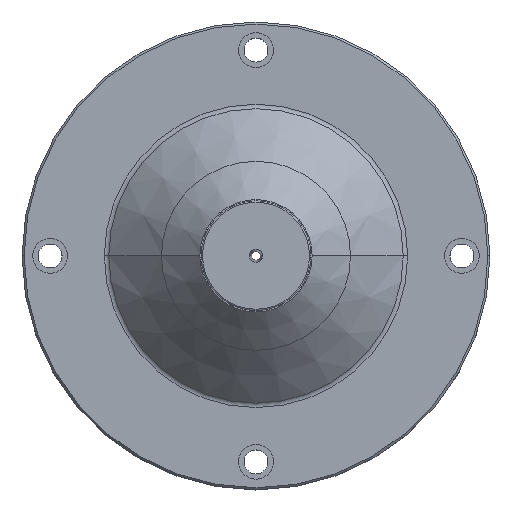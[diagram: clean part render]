
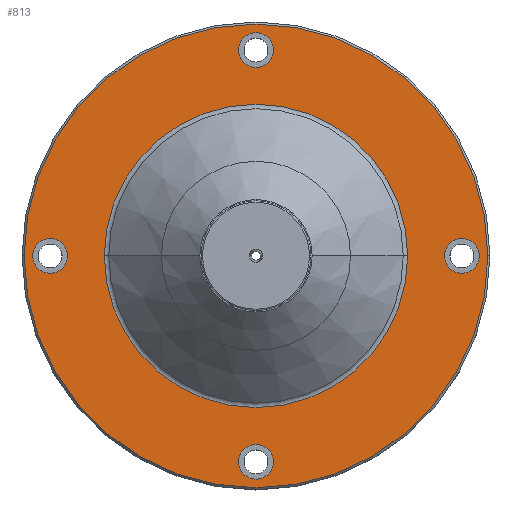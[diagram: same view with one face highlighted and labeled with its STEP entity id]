
A CAD part, top view. The second image highlights one B-rep face of the part: STEP entity #813.
In plain terms, the highlighted planar face has unit normal (0, 0, 1).
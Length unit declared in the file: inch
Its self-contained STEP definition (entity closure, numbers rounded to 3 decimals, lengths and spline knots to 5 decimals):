
#80=CARTESIAN_POINT('',(0.,0.,1.12));
#81=DIRECTION('',(0.,0.,-1.));
#82=DIRECTION('',(-1.,0.,0.));
#83=AXIS2_PLACEMENT_3D('',#80,#81,#82);
#85=CARTESIAN_POINT('',(0.,0.,1.12));
#86=DIRECTION('',(0.,0.,-1.));
#87=DIRECTION('',(1.,0.,0.));
#88=AXIS2_PLACEMENT_3D('',#85,#86,#87);
#90=CARTESIAN_POINT('',(0.,0.,
1.12));
#91=DIRECTION('',(0.,0.,1.));
#92=DIRECTION('',(1.,0.,0.));
#93=AXIS2_PLACEMENT_3D('',#90,#91,#92);
#95=CARTESIAN_POINT('',(0.,0.,
1.12));
#96=DIRECTION('',(0.,0.,1.));
#97=DIRECTION('',(-1.,0.,0.));
#98=AXIS2_PLACEMENT_3D('',#95,#96,#97);
#100=CARTESIAN_POINT('',(0.,2.97,1.12));
#101=DIRECTION('',(0.,0.,-1.));
#102=DIRECTION('',(-1.,0.,0.));
#103=AXIS2_PLACEMENT_3D('',#100,#101,#102);
#105=CARTESIAN_POINT('',(0.,2.97,1.12));
#106=DIRECTION('',(0.,0.,-1.));
#107=DIRECTION('',(1.,0.,0.));
#108=AXIS2_PLACEMENT_3D('',#105,#106,#107);
#110=CARTESIAN_POINT('',(2.97,0.,1.12));
#111=DIRECTION('',(0.,0.,-1.));
#112=DIRECTION('',(-1.,0.,0.));
#113=AXIS2_PLACEMENT_3D('',#110,#111,#112);
#115=CARTESIAN_POINT('',(2.97,0.,1.12));
#116=DIRECTION('',(0.,0.,-1.));
#117=DIRECTION('',(1.,0.,0.));
#118=AXIS2_PLACEMENT_3D('',#115,#116,#117);
#120=CARTESIAN_POINT('',(0.,-2.97,1.12));
#121=DIRECTION('',(0.,0.,-1.));
#122=DIRECTION('',(-1.,0.,0.));
#123=AXIS2_PLACEMENT_3D('',#120,#121,#122);
#125=CARTESIAN_POINT('',(0.,-2.97,1.12));
#126=DIRECTION('',(0.,0.,-1.));
#127=DIRECTION('',(1.,0.,0.));
#128=AXIS2_PLACEMENT_3D('',#125,#126,#127);
#130=CARTESIAN_POINT('',(-2.97,0.,1.12));
#131=DIRECTION('',(0.,0.,-1.));
#132=DIRECTION('',(-1.,0.,0.));
#133=AXIS2_PLACEMENT_3D('',#130,#131,#132);
#135=CARTESIAN_POINT('',(-2.97,0.,1.12));
#136=DIRECTION('',(0.,0.,-1.));
#137=DIRECTION('',(1.,0.,0.));
#138=AXIS2_PLACEMENT_3D('',#135,#136,#137);
#586=CARTESIAN_POINT('',(-2.18785,0.,1.12));
#587=CARTESIAN_POINT('',(2.18785,0.,1.12));
#588=VERTEX_POINT('',#586);
#589=VERTEX_POINT('',#587);
#594=CARTESIAN_POINT('',(3.345,0.,1.12));
#595=CARTESIAN_POINT('',(-3.345,0.,1.12));
#596=VERTEX_POINT('',#594);
#597=VERTEX_POINT('',#595);
#618=CARTESIAN_POINT('',(-0.25,2.97,1.12));
#619=CARTESIAN_POINT('',(0.25,2.97,1.12));
#620=VERTEX_POINT('',#618);
#621=VERTEX_POINT('',#619);
#634=CARTESIAN_POINT('',(2.72,0.,1.12));
#635=CARTESIAN_POINT('',(3.22,0.,1.12));
#636=VERTEX_POINT('',#634);
#637=VERTEX_POINT('',#635);
#650=CARTESIAN_POINT('',(-0.25,-2.97,1.12));
#651=CARTESIAN_POINT('',(0.25,-2.97,1.12));
#652=VERTEX_POINT('',#650);
#653=VERTEX_POINT('',#651);
#666=CARTESIAN_POINT('',(-3.22,0.,1.12));
#667=CARTESIAN_POINT('',(-2.72,0.,1.12));
#668=VERTEX_POINT('',#666);
#669=VERTEX_POINT('',#667);
#773=CARTESIAN_POINT('',(0.,0.,1.12));
#774=DIRECTION('',(0.,0.,-1.));
#775=DIRECTION('',(1.,0.,0.));
#776=AXIS2_PLACEMENT_3D('',#773,#774,#775);
#777=PLANE('',#776);
#778=ORIENTED_EDGE('',*,*,#763,.F.);
#780=ORIENTED_EDGE('',*,*,#779,.F.);
#781=EDGE_LOOP('',(#778,#780));
#782=FACE_OUTER_BOUND('',#781,.F.);
#784=ORIENTED_EDGE('',*,*,#783,.F.);
#786=ORIENTED_EDGE('',*,*,#785,.F.);
#787=EDGE_LOOP('',(#784,#786));
#788=FACE_BOUND('',#787,.F.);
#790=ORIENTED_EDGE('',*,*,#789,.F.);
#792=ORIENTED_EDGE('',*,*,#791,.F.);
#793=EDGE_LOOP('',(#790,#792));
#794=FACE_BOUND('',#793,.F.);
#796=ORIENTED_EDGE('',*,*,#795,.F.);
#798=ORIENTED_EDGE('',*,*,#797,.F.);
#799=EDGE_LOOP('',(#796,#798));
#800=FACE_BOUND('',#799,.F.);
#802=ORIENTED_EDGE('',*,*,#801,.F.);
#804=ORIENTED_EDGE('',*,*,#803,.F.);
#805=EDGE_LOOP('',(#802,#804));
#806=FACE_BOUND('',#805,.F.);
#808=ORIENTED_EDGE('',*,*,#807,.F.);
#810=ORIENTED_EDGE('',*,*,#809,.F.);
#811=EDGE_LOOP('',(#808,#810));
#812=FACE_BOUND('',#811,.F.);
#813=ADVANCED_FACE('',(#782,#788,#794,#800,#806,#812),#777,.F.);
#84=CIRCLE('',#83,2.18785);
#89=CIRCLE('',#88,2.18785);
#94=CIRCLE('',#93,3.345);
#99=CIRCLE('',#98,3.345);
#104=CIRCLE('',#103,0.25);
#109=CIRCLE('',#108,0.25);
#114=CIRCLE('',#113,0.25);
#119=CIRCLE('',#118,0.25);
#124=CIRCLE('',#123,0.25);
#129=CIRCLE('',#128,0.25);
#134=CIRCLE('',#133,0.25);
#139=CIRCLE('',#138,0.25);
#763=EDGE_CURVE('',#596,#597,#94,.T.);
#779=EDGE_CURVE('',#597,#596,#99,.T.);
#783=EDGE_CURVE('',#588,#589,#84,.T.);
#785=EDGE_CURVE('',#589,#588,#89,.T.);
#789=EDGE_CURVE('',#620,#621,#104,.T.);
#791=EDGE_CURVE('',#621,#620,#109,.T.);
#795=EDGE_CURVE('',#636,#637,#114,.T.);
#797=EDGE_CURVE('',#637,#636,#119,.T.);
#801=EDGE_CURVE('',#652,#653,#124,.T.);
#803=EDGE_CURVE('',#653,#652,#129,.T.);
#807=EDGE_CURVE('',#668,#669,#134,.T.);
#809=EDGE_CURVE('',#669,#668,#139,.T.);
